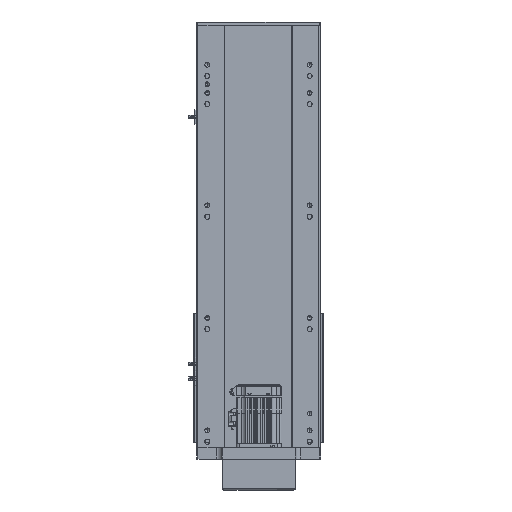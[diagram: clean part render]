
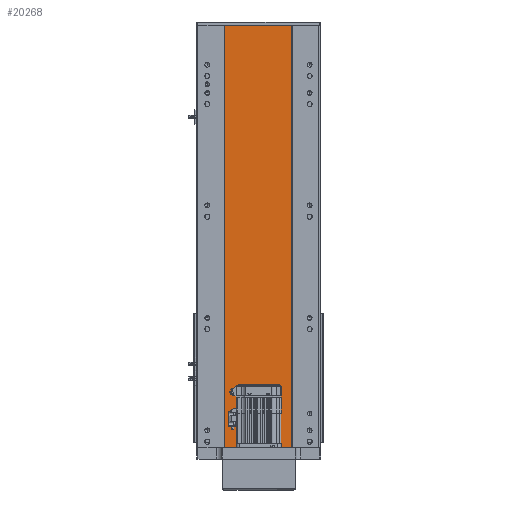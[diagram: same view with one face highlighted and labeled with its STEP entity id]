
A CAD part, front view. The second image highlights one B-rep face of the part: STEP entity #20268.
In plain terms, the highlighted planar face has unit normal (0, -1, 0).
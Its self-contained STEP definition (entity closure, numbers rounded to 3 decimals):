
#641 = DIRECTION ( 'NONE',  ( 1., 0., 0. ) ) ;
#762 = CARTESIAN_POINT ( 'NONE',  ( 551.58, 155.016, 751. ) ) ;
#1780 = EDGE_CURVE ( 'NONE', #10665, #7521, #6495, .T. ) ;
#4638 = DIRECTION ( 'NONE',  ( 0., 0., 1. ) ) ;
#6495 = LINE ( 'NONE', #34324, #28218 ) ;
#7521 = VERTEX_POINT ( 'NONE', #42049 ) ;
#10665 = VERTEX_POINT ( 'NONE', #11734 ) ;
#11253 = CARTESIAN_POINT ( 'NONE',  ( 0., 155.016, 751. ) ) ;
#11734 = CARTESIAN_POINT ( 'NONE',  ( 432.408, 155.016, 751. ) ) ;
#12254 = DIRECTION ( 'NONE',  ( 1., 0., 0. ) ) ;
#13035 = EDGE_CURVE ( 'NONE', #10665, #31620, #39394, .T. ) ;
#14373 = PLANE ( 'NONE',  #37385 ) ;
#14777 = VECTOR ( 'NONE', #37862, 1000. ) ;
#16842 = EDGE_LOOP ( 'NONE', ( #28189, #32033, #24088, #36902 ) ) ;
#17671 = FACE_OUTER_BOUND ( 'NONE', #16842, .T. ) ;
#20268 = ADVANCED_FACE ( 'NONE', ( #17671 ), #14373, .F. ) ;
#22029 = CARTESIAN_POINT ( 'NONE',  ( 551.58, 155.016, 0. ) ) ;
#23339 = EDGE_CURVE ( 'NONE', #7521, #41964, #34227, .T. ) ;
#23492 = DIRECTION ( 'NONE',  ( 0., 0., -1. ) ) ;
#24088 = ORIENTED_EDGE ( 'NONE', *, *, #13035, .F. ) ;
#24126 = VECTOR ( 'NONE', #12254, 1000. ) ;
#27302 = CARTESIAN_POINT ( 'NONE',  ( 551.58, 155.016, 751. ) ) ;
#27828 = DIRECTION ( 'NONE',  ( 0., 1., 0. ) ) ;
#28189 = ORIENTED_EDGE ( 'NONE', *, *, #23339, .T. ) ;
#28218 = VECTOR ( 'NONE', #23492, 1000. ) ;
#30901 = CARTESIAN_POINT ( 'NONE',  ( 0., 155.016, 0. ) ) ;
#31620 = VERTEX_POINT ( 'NONE', #27302 ) ;
#32033 = ORIENTED_EDGE ( 'NONE', *, *, #43358, .F. ) ;
#34227 = LINE ( 'NONE', #30901, #34930 ) ;
#34324 = CARTESIAN_POINT ( 'NONE',  ( 432.408, 155.016, 751. ) ) ;
#34930 = VECTOR ( 'NONE', #641, 1000. ) ;
#35024 = CARTESIAN_POINT ( 'NONE',  ( 0., 155.016, 751. ) ) ;
#36902 = ORIENTED_EDGE ( 'NONE', *, *, #1780, .T. ) ;
#37385 = AXIS2_PLACEMENT_3D ( 'NONE', #11253, #27828, #4638 ) ;
#37862 = DIRECTION ( 'NONE',  ( 0., 0., -1. ) ) ;
#39394 = LINE ( 'NONE', #35024, #24126 ) ;
#40939 = LINE ( 'NONE', #762, #14777 ) ;
#41964 = VERTEX_POINT ( 'NONE', #22029 ) ;
#42049 = CARTESIAN_POINT ( 'NONE',  ( 432.408, 155.016, 0. ) ) ;
#43358 = EDGE_CURVE ( 'NONE', #31620, #41964, #40939, .T. ) ;
